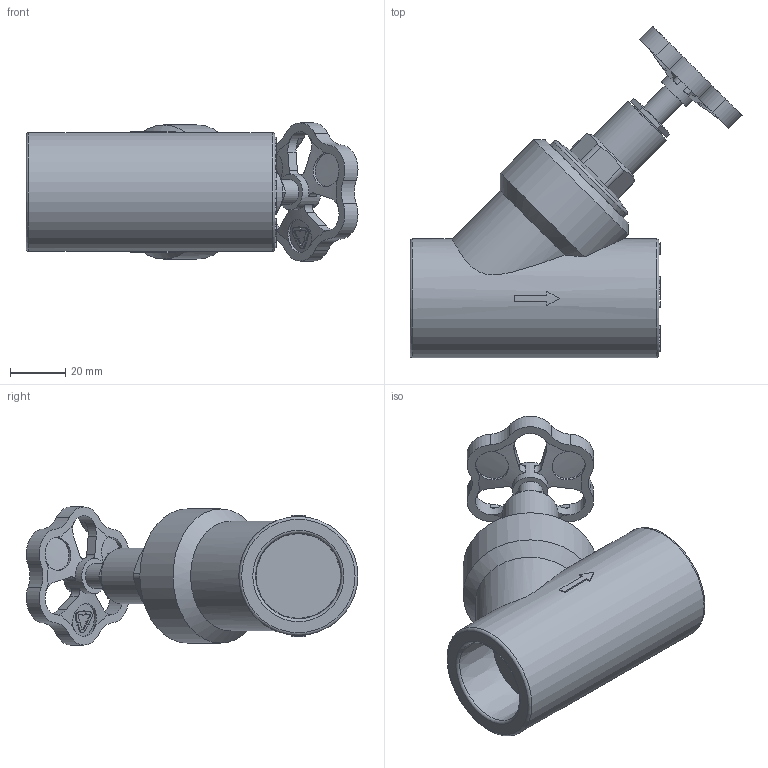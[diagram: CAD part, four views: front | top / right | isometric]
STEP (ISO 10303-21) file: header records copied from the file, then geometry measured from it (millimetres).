
FILE_DESCRIPTION(('STEP AP203'), '1');
FILE_NAME('覆.491219.003.000 捘 - VTp.714.0.032', '', ('UNSPECIFIED'), ('UNSPECIFIED'), 'C3D Converter', 'C3D Toolkit', '');
FILE_SCHEMA(('CONFIG_CONTROL_DESIGN'));
Length unit declared in the file: millimetre
Products named in the file (3): ВР.491219.003.000 СБ; ВР.753181.020
Assembly tree (2 placements, depth 2):
  ВР.491219.003.000 СБ
    ВР.753181.020
    (unnamed)
Bounding box: 120.03 x 119.9 x 50 mm (x, y, z)
Volume: 176534 mm3; surface area: 30832.1 mm2
Topology: 1 solids, 5 shells, 686 faces, 1865 edges, 1241 vertices
Faces by surface type: plane 319, extrusion 240, cylinder 80, cone 40, torus 6, bspline 1
Full cylindrical faces by diameter (mm): 4 x1, 5 x1, 9 x1, 12 x6, 12.8 x1, 14.1 x1, 20 x1, 37.5 x1, 43 x1, 48.5 x1
Entity records: 30262 total; most frequent: CARTESIAN_POINT 14321, ORIENTED_EDGE 3662, DIRECTION 2318, EDGE_CURVE 1831, VERTEX_POINT 1235, VECTOR 1152, B_SPLINE_CURVE_WITH_KNOTS 1016, LINE 912
